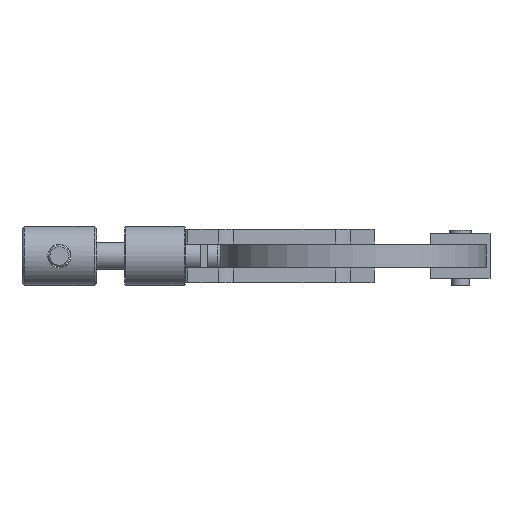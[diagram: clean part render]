
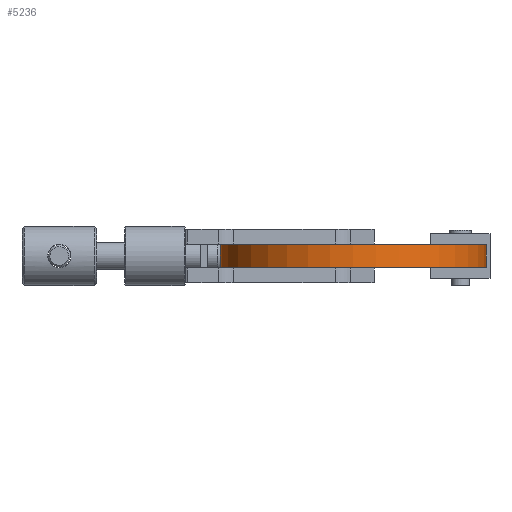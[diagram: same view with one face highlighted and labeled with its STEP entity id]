
A CAD part, left-side view. The second image highlights one B-rep face of the part: STEP entity #5236.
In plain terms, the highlighted cylindrical face has radius 57 mm (diameter 114 mm), a partial arc.
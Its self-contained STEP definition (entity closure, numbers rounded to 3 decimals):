
#91 = CARTESIAN_POINT ( 'NONE',  ( 0., 57., -9.525 ) ) ;
#2953 = EDGE_LOOP ( 'NONE', ( #5542, #5543, #5544, #5545 ) ) ;
#3018 = VERTEX_POINT ( 'NONE', #91 ) ;
#3182 = CARTESIAN_POINT ( 'NONE',  ( 0., 0., -9.525 ) ) ;
#3253 = DIRECTION ( 'NONE',  ( 0., 0., 1. ) ) ;
#3257 = DIRECTION ( 'NONE',  ( 1., 0., 0. ) ) ;
#4316 = CARTESIAN_POINT ( 'NONE',  ( 0., 0., -9.525 ) ) ;
#4321 = DIRECTION ( 'NONE',  ( 0., 0., 1. ) ) ;
#4607 = CARTESIAN_POINT ( 'NONE',  ( 0., -57., 0. ) ) ;
#4621 = CARTESIAN_POINT ( 'NONE',  ( 0., -57., -9.525 ) ) ;
#4687 = DIRECTION ( 'NONE',  ( 1., 0., 0. ) ) ;
#4703 = CARTESIAN_POINT ( 'NONE',  ( 0., 57., 0. ) ) ;
#4917 = EDGE_CURVE ( 'NONE', #3018, #6458, #7516, .T. ) ;
#4977 = EDGE_CURVE ( 'NONE', #6466, #6467, #7606, .T. ) ;
#5019 = EDGE_CURVE ( 'NONE', #3018, #6466, #7674, .T. ) ;
#5024 = EDGE_CURVE ( 'NONE', #6458, #6467, #7684, .T. ) ;
#5236 = ADVANCED_FACE ( 'NONE', ( #8017 ), #8026, .T. ) ;
#5542 = ORIENTED_EDGE ( 'NONE', *, *, #4977, .F. ) ;
#5543 = ORIENTED_EDGE ( 'NONE', *, *, #5019, .F. ) ;
#5544 = ORIENTED_EDGE ( 'NONE', *, *, #4917, .T. ) ;
#5545 = ORIENTED_EDGE ( 'NONE', *, *, #5024, .T. ) ;
#6458 = VERTEX_POINT ( 'NONE', #4621 ) ;
#6466 = VERTEX_POINT ( 'NONE', #4703 ) ;
#6467 = VERTEX_POINT ( 'NONE', #4607 ) ;
#6809 = AXIS2_PLACEMENT_3D ( 'NONE', #3182, #3253, #3257 ) ;
#6840 = AXIS2_PLACEMENT_3D ( 'NONE', #8721, #8720, #8719 ) ;
#7516 = CIRCLE ( 'NONE', #6809, 57. ) ;
#7606 = CIRCLE ( 'NONE', #6840, 57. ) ;
#7674 = LINE ( 'NONE', #8779, #7677 ) ;
#7677 = VECTOR ( 'NONE', #8642, 1000. ) ;
#7684 = LINE ( 'NONE', #8616, #7687 ) ;
#7687 = VECTOR ( 'NONE', #8615, 1000. ) ;
#8017 = FACE_OUTER_BOUND ( 'NONE', #2953, .T. ) ;
#8026 = CYLINDRICAL_SURFACE ( 'NONE', #8228, 57. ) ;
#8228 = AXIS2_PLACEMENT_3D ( 'NONE', #4316, #4321, #4687 ) ;
#8615 = DIRECTION ( 'NONE',  ( 0., 0., 1. ) ) ;
#8616 = CARTESIAN_POINT ( 'NONE',  ( 0., -57., -9.525 ) ) ;
#8642 = DIRECTION ( 'NONE',  ( 0., 0., 1. ) ) ;
#8719 = DIRECTION ( 'NONE',  ( 1., 0., 0. ) ) ;
#8720 = DIRECTION ( 'NONE',  ( 0., 0., 1. ) ) ;
#8721 = CARTESIAN_POINT ( 'NONE',  ( 0., 0., 0. ) ) ;
#8779 = CARTESIAN_POINT ( 'NONE',  ( 0., 57., -9.525 ) ) ;
